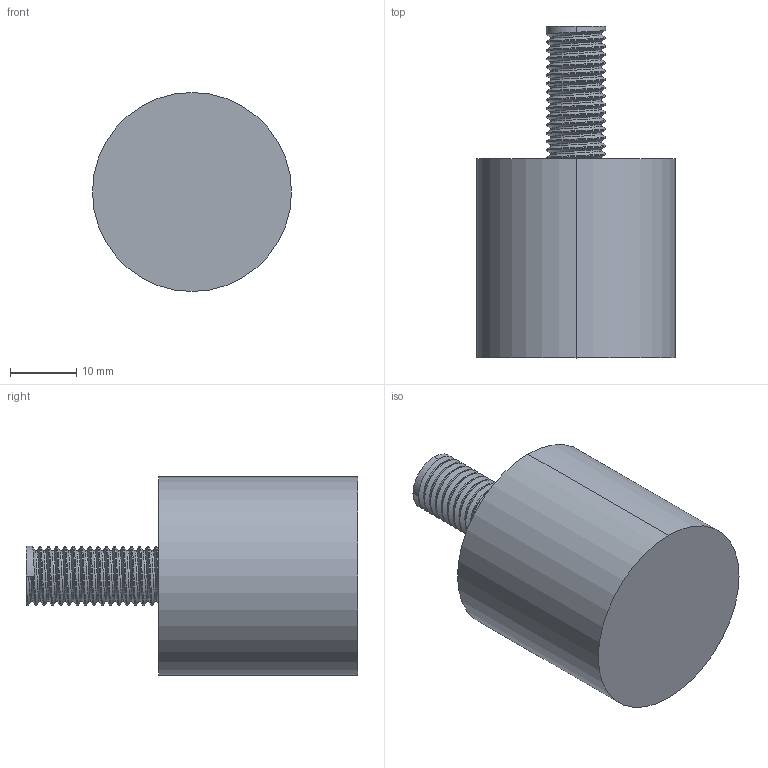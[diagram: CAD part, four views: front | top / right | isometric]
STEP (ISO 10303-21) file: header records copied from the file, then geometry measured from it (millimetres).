
FILE_DESCRIPTION (( 'STEP AP214' ), '1' );
FILE_NAME ('1.4041 Pysäytin 30 M8.STEP', '2025-09-15T07:28:54', ( '' ), ( '' ), 'SwSTEP 2.0', 'SolidWorks 2025', '' );
FILE_SCHEMA (( 'AUTOMOTIVE_DESIGN' ));
Length unit declared in the file: millimetre
Products named in the file (1): 1.4041 Pysäytin 30 M8
Bounding box: 30 x 50 x 30 mm (x, y, z)
Volume: 22281.1 mm3; surface area: 5135.2 mm2
Topology: 1 solids, 2 shells, 53 faces, 138 edges, 91 vertices
Faces by surface type: cylinder 40, plane 7, bspline 6
Entity records: 6065 total; most frequent: CARTESIAN_POINT 4511, ORIENTED_EDGE 276, DIRECTION 172, EDGE_CURVE 138, VERTEX_POINT 91, AXIS2_PLACEMENT_3D 63, EDGE_LOOP 55, ADVANCED_FACE 53
